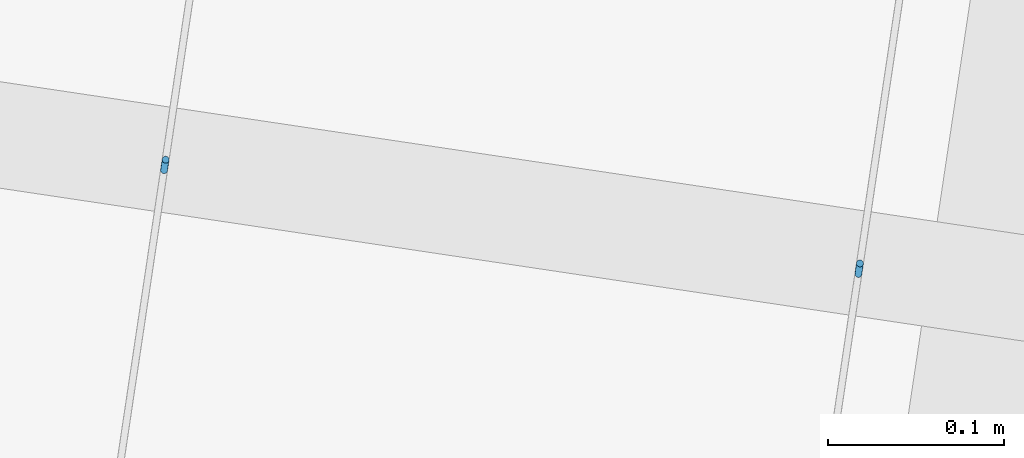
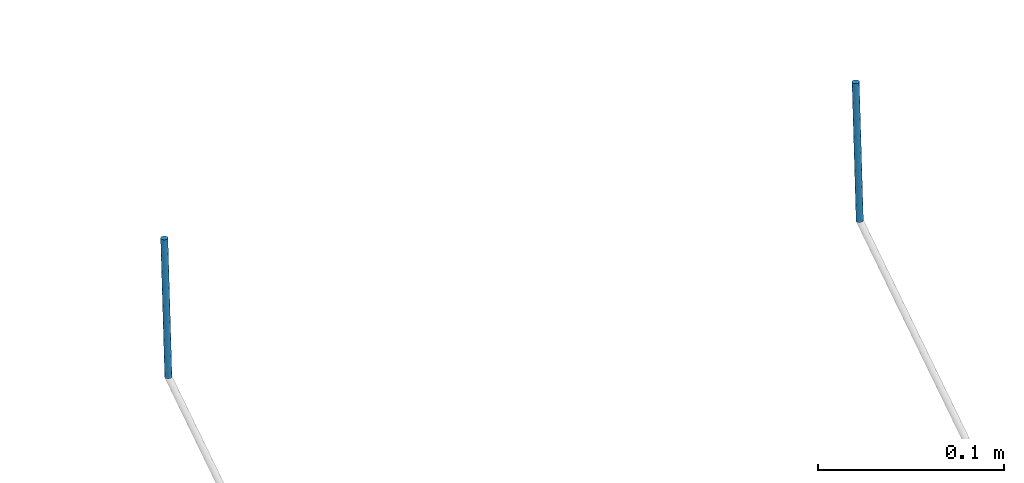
# One storey, part 128 of 142: 2 members, 1 element without a shape of its own.
"""IFC4 building model written with IfcOpenShell, lengths in metres."""

import ifcopenshell
import ifcopenshell.guid

model = None  # the IFC model being written
_history = None  # IfcOwnerHistory: only IFC2X3 demands one
_inside = {}  # id of a spatial element -> (the spatial element, [elements in it])
_under = {}  # id of a project, library or spatial element -> (it, [spatial elements below it])
_declared = {}  # id of a project -> (the project, [libraries it declares])
_typed = {}  # id of a type object -> (the type object, [elements of that type])
_made_of = {}  # id of a material, layer set ... -> (it, [elements and type objects made of it])


def new_model(schema):
    """Start an empty IFC model of exactly this schema.

    Asked for "IFC4X3", IfcOpenShell would pick the latest addendum, in which some entities
    have other attributes; the version numbers below select the first issue.
    IFC2X3 requires an IfcOwnerHistory on every rooted entity: one is made here for all.
    """
    global model, _history
    if schema == "IFC4X3":
        model = ifcopenshell.file(schema_version=(4, 3, 0, 0))
    else:
        model = ifcopenshell.file(schema=schema)
    _inside.clear()
    _under.clear()
    _declared.clear()
    _typed.clear()
    _made_of.clear()
    _history = None
    if model.schema == "IFC2X3":
        org = make("IfcOrganization", Name="unknown")
        user = make(
            "IfcPersonAndOrganization",
            ThePerson=make("IfcPerson", FamilyName="unknown"),
            TheOrganization=org,
        )
        app = make(
            "IfcApplication",
            ApplicationDeveloper=org,
            Version="unknown",
            ApplicationFullName="unknown",
            ApplicationIdentifier="unknown",
        )
        _history = make(
            "IfcOwnerHistory",
            OwningUser=user,
            OwningApplication=app,
            ChangeAction="ADDED",
            CreationDate=0,
        )
    return model


def make(cls, **values):
    """One entity of the class cls with the attributes given. An attribute that is None is left unset."""
    return model.create_entity(
        cls, **{name: value for name, value in values.items() if value is not None}
    )


def rooted(cls, **values):
    """An entity with a GlobalId (a new one), such as an element, a storey or a relation."""
    return make(cls, GlobalId=ifcopenshell.guid.new(), OwnerHistory=_history, **values)


def si_unit(unit_type, name, prefix=None):
    """IfcSIUnit, for example si_unit("LENGTHUNIT", "METRE", prefix="MILLI")."""
    return make("IfcSIUnit", UnitType=unit_type, Prefix=prefix, Name=name)


def assignment(units):
    """IfcUnitAssignment: the units of a project."""
    return None if units is None else make("IfcUnitAssignment", Units=units)


def point(xyz):
    """IfcCartesianPoint."""
    return None if xyz is None else make("IfcCartesianPoint", Coordinates=xyz)


def direction(xyz):
    """IfcDirection."""
    return None if xyz is None else make("IfcDirection", DirectionRatios=xyz)


def frame(location, z_axis=None, x_axis=None):
    """IfcAxis2Placement3D, a coordinate frame: its origin and axes. An axis left out is left unset."""
    return make(
        "IfcAxis2Placement3D",
        Location=point(location),
        Axis=direction(z_axis),
        RefDirection=direction(x_axis),
    )


def origin_with_axes():
    """The frame at (0, 0, 0) with the z axis (0, 0, 1) and the x axis (1, 0, 0) written out."""
    return frame((0.0, 0.0, 0.0), z_axis=(0.0, 0.0, 1.0), x_axis=(1.0, 0.0, 0.0))


def place(relative_to, where):
    """IfcLocalPlacement: puts the frame where relative to a parent placement (None: the world)."""
    return make(
        "IfcLocalPlacement", PlacementRelTo=relative_to, RelativePlacement=where
    )


def context(
    kind, dimensions, precision=None, world=None, true_north=None, identifier=None
):
    """IfcGeometricRepresentationContext, for example the 3D "Model" context."""
    return make(
        "IfcGeometricRepresentationContext",
        ContextIdentifier=identifier,
        ContextType=kind,
        CoordinateSpaceDimension=dimensions,
        Precision=precision,
        WorldCoordinateSystem=world,
        TrueNorth=true_north,
    )


def subcontext(parent, identifier, kind, view, scale=None):
    """IfcGeometricRepresentationSubContext, for example "Body" below "Model"."""
    return make(
        "IfcGeometricRepresentationSubContext",
        ContextIdentifier=identifier,
        ContextType=kind,
        ParentContext=parent,
        TargetScale=scale,
        TargetView=view,
    )


def project(units=None, contexts=None):
    """IfcProject with its units and contexts."""
    return rooted(
        "IfcProject",
        Name="project",
        RepresentationContexts=contexts,
        UnitsInContext=assignment(units),
    )


def spatial(cls, under=None, at=None, **own):
    """A site, building, storey or space (cls), placed at a placement, below another one or the project."""
    s = rooted(cls, ObjectPlacement=at, **own)
    if under is not None:
        _under.setdefault(under.id(), (under, []))[1].append(s)
    return s


def profile(cls, at=None, kind="AREA", **sizes):
    """A parametric profile (cls). Its sizes go by their IFC names, for example OverallWidth=200.0."""
    return make(cls, ProfileType=kind, Position=at, **sizes)


def circle(**sizes):
    """IfcCircleProfileDef."""
    return profile("IfcCircleProfileDef", **sizes)


def extrude(swept, where, along, depth):
    """IfcExtrudedAreaSolid: the profile swept, set in the frame where, extruded along a direction by depth."""
    return make(
        "IfcExtrudedAreaSolid",
        SweptArea=swept,
        Position=where,
        ExtrudedDirection=direction(along),
        Depth=depth,
    )


def shape(context_of_items, identifier, shape_type, items):
    """IfcShapeRepresentation: the items that make up one representation, for example the "Body"."""
    return make(
        "IfcShapeRepresentation",
        ContextOfItems=context_of_items,
        RepresentationIdentifier=identifier,
        RepresentationType=shape_type,
        Items=items,
    )


def material(Name=None, Category=None):
    """IfcMaterial."""
    return make("IfcMaterial", Name=Name, Category=Category)


def material_profile(
    of_material, cross_section, Name=None, Category=None, Priority=None
):
    """IfcMaterialProfile: a cross section and its material."""
    return make(
        "IfcMaterialProfile",
        Name=Name,
        Material=of_material,
        Profile=cross_section,
        Priority=Priority,
        Category=Category,
    )


def profile_set(profiles, Name=None, composite=None):
    """IfcMaterialProfileSet."""
    return make(
        "IfcMaterialProfileSet",
        Name=Name,
        MaterialProfiles=profiles,
        CompositeProfile=composite,
    )


def profile_usage(for_profile_set, cardinal=None, extent=None):
    """IfcMaterialProfileSetUsage: how a profile set lies along its element."""
    return make(
        "IfcMaterialProfileSetUsage",
        ForProfileSet=for_profile_set,
        CardinalPoint=cardinal,
        ReferenceExtent=extent,
    )


def made_of(thing, what):
    """Note that an element or type object is made of a material, layer set ...; save() writes the relation."""
    if what is not None:
        _made_of.setdefault(what.id(), (what, []))[1].append(thing)
    return thing


def type_object(cls, material=None, **own):
    """A type object (cls), such as IfcWallType, which elements share."""
    return made_of(rooted(cls, **own), material)


def element(
    cls,
    number,
    at=None,
    inside=None,
    cuts=None,
    type_object=None,
    material=None,
    context=None,
    identifier="Body",
    shape_type=None,
    held_by="IfcProductDefinitionShape",
    body=None,
    shapes=None,
    **own,
):
    """One element of the class cls, such as IfcWall. Its Tag is "e" and its number.

    at: its placement. inside: the storey or other place that contains it. cuts: it is an
    opening in that element (IfcRelVoidsElement). A single representation is given by context,
    identifier, shape_type and body (its items); several are given by shapes. held_by: the class
    of the entity that holds the representations. save() writes the other relations.
    """
    e = rooted(cls, Tag="e%d" % number, ObjectPlacement=at, **own)
    if body is not None:
        shapes = [shape(context, identifier, shape_type, body)]
    if shapes is not None:
        e.Representation = make(held_by, Representations=shapes)
    if inside is not None:
        _inside.setdefault(inside.id(), (inside, []))[1].append(e)
    if cuts is not None:
        rooted(
            "IfcRelVoidsElement", RelatingBuildingElement=cuts, RelatedOpeningElement=e
        )
    if type_object is not None:
        _typed.setdefault(type_object.id(), (type_object, []))[1].append(e)
    return made_of(e, material)


def aggregate(whole, parts):
    """IfcRelAggregates: a whole, such as a stair, and the parts it consists of."""
    return rooted("IfcRelAggregates", RelatingObject=whole, RelatedObjects=parts)


def save(model, path):
    """Write the relations noted so far, then the file.

    IfcRelAggregates (storeys below a building ...), IfcRelContainedInSpatialStructure (elements
    in a storey), IfcRelDefinesByType, IfcRelAssociatesMaterial and IfcRelDeclares: one each for
    every whole, place, type object, material and project.
    """
    for whole, parts in _under.values():
        aggregate(whole, parts)
    for where, things in _inside.values():
        rooted(
            "IfcRelContainedInSpatialStructure",
            RelatedElements=things,
            RelatingStructure=where,
        )
    for kind, things in _typed.values():
        rooted("IfcRelDefinesByType", RelatedObjects=things, RelatingType=kind)
    for what, things in _made_of.values():
        rooted("IfcRelAssociatesMaterial", RelatedObjects=things, RelatingMaterial=what)
    for by, libraries in _declared.values():
        rooted("IfcRelDeclares", RelatingContext=by, RelatedDefinitions=libraries)
    model.write(path)


model = new_model("IFC4")

# Units and contexts
model_context = context("Model", 3, precision=1e-05, world=origin_with_axes(), true_north=direction((0.0, 1.0)))
body_context = subcontext(model_context, "Body", "Model", "MODEL_VIEW")
ifc_project = project(units=[si_unit("AREAUNIT", "SQUARE_METRE"), si_unit("VOLUMEUNIT", "CUBIC_METRE"), si_unit("LENGTHUNIT", "METRE")], contexts=[model_context])

# Site, building, storey
site_placement = place(None, origin_with_axes())
site = spatial("IfcSite", under=ifc_project, at=site_placement, Name="Lares · Rua das Mercês · artigo 4771")
building_placement = place(site_placement, frame((15.0, 9.7, 14.65), z_axis=(0.0, 0.0, 1.0), x_axis=(0.989015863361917, -0.147809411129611, 0.0)))
building = spatial("IfcBuilding", under=site, at=building_placement, Name="Casa Sobreposta")
storey_placement = place(building_placement, origin_with_axes())
storey = spatial("IfcBuildingStorey", under=building, at=storey_placement, Name="00 · Habitação e estacionamento", Elevation=14.65)

# Assembly, members
assembly_placement = place(storey_placement, origin_with_axes())
assembly = element("IfcElementAssembly", 1, at=assembly_placement, inside=storey, Name="Pérgola · prolongamento da estufa 6 m", ObjectType="PERGOLA_GREENHOUSE_EXTENSION", PredefinedType="USERDEFINED")
ifc_material = material(Name="Aço galvanizado / Stahl verzinkt", Category="steel")
ifc_material_profile = material_profile(ifc_material, circle(Radius=0.002))
ifc_profile_set = profile_set([ifc_material_profile], Name="D0.004")
ifc_profile_usage_1 = profile_usage(ifc_profile_set)
member_type = type_object("IfcMemberType", Name="D0.004 / galvanized", PredefinedType="NOTDEFINED", material=ifc_profile_set)
member_1_placement = place(assembly_placement, frame((-0.599999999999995, 1.21440957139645, 7.21329402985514), z_axis=(0.0, 0.0686229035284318, 0.997642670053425), x_axis=(1.0, 0.0, 0.0)))
member_1 = element("IfcMember", 2, at=member_1_placement, type_object=member_type, material=ifc_profile_usage_1, Name="Pérgola · fio para trepadeiras", context=body_context, shape_type="SweptSolid", body=[
    extrude(circle(Radius=0.002), origin_with_axes(), (0.0, 0.0, 1.0), 0.0875893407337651),
])
ifc_profile_usage_2 = profile_usage(ifc_profile_set)
member_2_placement = place(assembly_placement, frame((-0.199999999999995, 1.21440957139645, 7.21329402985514), z_axis=(0.0, 0.0686229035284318, 0.997642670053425), x_axis=(1.0, 0.0, 0.0)))
member_2 = element("IfcMember", 3, at=member_2_placement, type_object=member_type, material=ifc_profile_usage_2, Name="Pérgola · fio para trepadeiras", context=body_context, shape_type="SweptSolid", body=[
    extrude(circle(Radius=0.002), origin_with_axes(), (0.0, 0.0, 1.0), 0.0875893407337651),
])
aggregate(assembly, [member_1, member_2])

save(model, "model.ifc")
